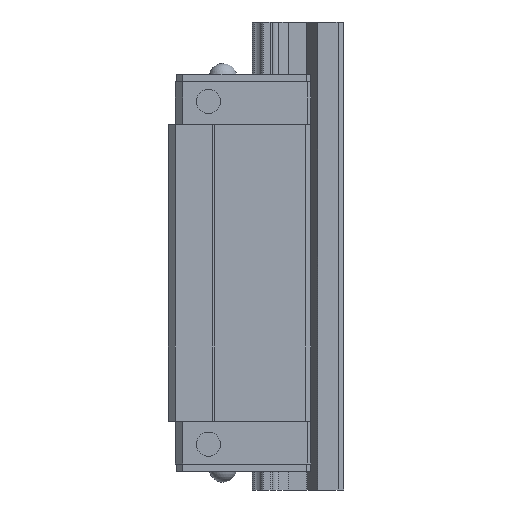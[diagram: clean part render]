
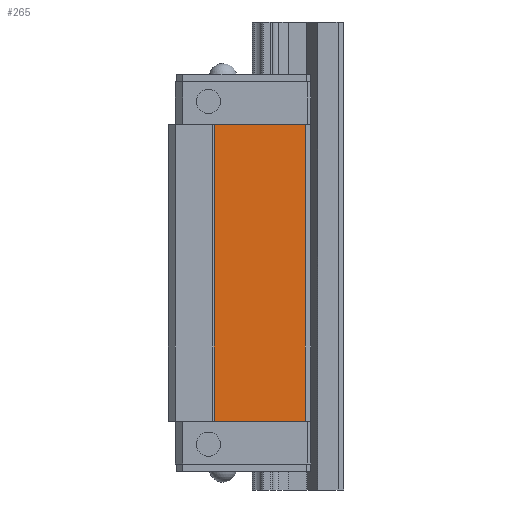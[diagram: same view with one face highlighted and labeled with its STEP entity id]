
A CAD part, left-side view. The second image highlights one B-rep face of the part: STEP entity #265.
In plain terms, the highlighted planar face has unit normal (-1, 0, 0).
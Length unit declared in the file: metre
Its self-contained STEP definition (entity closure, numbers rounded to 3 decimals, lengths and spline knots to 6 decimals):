
#265 = ADVANCED_FACE( '', ( #693 ), #694, .F. );
#693 = FACE_OUTER_BOUND( '', #1357, .T. );
#694 = PLANE( '', #1358 );
#1357 = EDGE_LOOP( '', ( #2047, #2048, #2049, #2050 ) );
#1358 = AXIS2_PLACEMENT_3D( '', #2051, #2052, #2053 );
#2047 = ORIENTED_EDGE( '', *, *, #3746, .T. );
#2048 = ORIENTED_EDGE( '', *, *, #3747, .F. );
#2049 = ORIENTED_EDGE( '', *, *, #3748, .F. );
#2050 = ORIENTED_EDGE( '', *, *, #3749, .T. );
#2051 = CARTESIAN_POINT( '', ( -0.0167, 0.0053, -0.0545 ) );
#2052 = DIRECTION( '', ( 1., 0., 0. ) );
#2053 = DIRECTION( '', ( 0., 1., 0. ) );
#3746 = EDGE_CURVE( '', #4459, #4460, #4461, .T. );
#3747 = EDGE_CURVE( '', #4462, #4460, #4463, .T. );
#3748 = EDGE_CURVE( '', #4464, #4462, #4465, .T. );
#3749 = EDGE_CURVE( '', #4464, #4459, #4466, .T. );
#4459 = VERTEX_POINT( '', #5492 );
#4460 = VERTEX_POINT( '', #5493 );
#4461 = LINE( '', #5494, #5495 );
#4462 = VERTEX_POINT( '', #5496 );
#4463 = LINE( '', #5497, #5498 );
#4464 = VERTEX_POINT( '', #5499 );
#4465 = LINE( '', #5500, #5501 );
#4466 = LINE( '', #5502, #5503 );
#5492 = CARTESIAN_POINT( '', ( -0.0167, 0.0053, -0.014 ) );
#5493 = CARTESIAN_POINT( '', ( -0.0167, 0.0177, -0.014 ) );
#5494 = CARTESIAN_POINT( '', ( -0.0167, 0.0053, -0.014 ) );
#5495 = VECTOR( '', #6790, 1. );
#5496 = CARTESIAN_POINT( '', ( -0.0167, 0.0177, -0.0545 ) );
#5497 = CARTESIAN_POINT( '', ( -0.0167, 0.0177, -0.0545 ) );
#5498 = VECTOR( '', #6791, 1. );
#5499 = CARTESIAN_POINT( '', ( -0.0167, 0.0053, -0.0545 ) );
#5500 = CARTESIAN_POINT( '', ( -0.0167, 0.0053, -0.0545 ) );
#5501 = VECTOR( '', #6792, 1. );
#5502 = CARTESIAN_POINT( '', ( -0.0167, 0.0053, -0.0545 ) );
#5503 = VECTOR( '', #6793, 1. );
#6790 = DIRECTION( '', ( 0., 1., 0. ) );
#6791 = DIRECTION( '', ( 0., 0., 1. ) );
#6792 = DIRECTION( '', ( 0., 1., 0. ) );
#6793 = DIRECTION( '', ( 0., 0., 1. ) );
